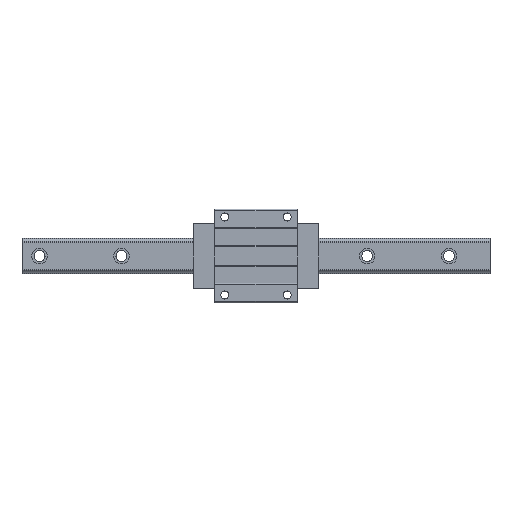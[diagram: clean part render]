
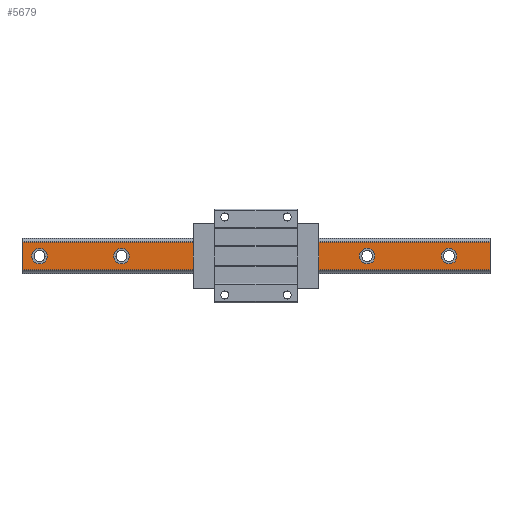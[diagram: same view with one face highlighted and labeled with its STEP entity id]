
A CAD part, top view. The second image highlights one B-rep face of the part: STEP entity #5679.
In plain terms, the highlighted planar face has unit normal (0, 0, 1).
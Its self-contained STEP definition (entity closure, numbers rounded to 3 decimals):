
#45 = EDGE_LOOP ( 'NONE', ( #5577, #1762 ) ) ;
#65 = VERTEX_POINT ( 'NONE', #7256 ) ;
#82 = EDGE_LOOP ( 'NONE', ( #3381, #1138 ) ) ;
#165 = VECTOR ( 'NONE', #6113, 1000. ) ;
#166 = VERTEX_POINT ( 'NONE', #3413 ) ;
#237 = EDGE_CURVE ( 'NONE', #3183, #3888, #2359, .T. ) ;
#258 = CARTESIAN_POINT ( 'NONE',  ( -287.5, 0., 32. ) ) ;
#307 = DIRECTION ( 'NONE',  ( 0., 1., 0. ) ) ;
#466 = ORIENTED_EDGE ( 'NONE', *, *, #3398, .F. ) ;
#586 = ORIENTED_EDGE ( 'NONE', *, *, #6864, .F. ) ;
#641 = CARTESIAN_POINT ( 'NONE',  ( 247.5, 0., 32. ) ) ;
#648 = DIRECTION ( 'NONE',  ( 0., 0., 1. ) ) ;
#658 = CARTESIAN_POINT ( 'NONE',  ( 300., 17.738, 32. ) ) ;
#665 = CARTESIAN_POINT ( 'NONE',  ( 142.5, 0., 32. ) ) ;
#781 = CARTESIAN_POINT ( 'NONE',  ( 152.5, 0., 32. ) ) ;
#853 = CARTESIAN_POINT ( 'NONE',  ( 37.5, 0., 32. ) ) ;
#868 = EDGE_CURVE ( 'NONE', #3888, #3183, #974, .T. ) ;
#872 = FACE_BOUND ( 'NONE', #3966, .T. ) ;
#941 = FACE_BOUND ( 'NONE', #6300, .T. ) ;
#961 = LINE ( 'NONE', #1323, #6206 ) ;
#966 = AXIS2_PLACEMENT_3D ( 'NONE', #665, #5826, #4720 ) ;
#974 = CIRCLE ( 'NONE', #2173, 10. ) ;
#998 = CARTESIAN_POINT ( 'NONE',  ( 300., -17.738, 32. ) ) ;
#1058 = DIRECTION ( 'NONE',  ( 0., 0., 1. ) ) ;
#1136 = DIRECTION ( 'NONE',  ( 0., 0., 1. ) ) ;
#1138 = ORIENTED_EDGE ( 'NONE', *, *, #3102, .F. ) ;
#1208 = CIRCLE ( 'NONE', #966, 10. ) ;
#1296 = CARTESIAN_POINT ( 'NONE',  ( -172.5, 0., 32. ) ) ;
#1323 = CARTESIAN_POINT ( 'NONE',  ( 300., 17.738, 32. ) ) ;
#1362 = DIRECTION ( 'NONE',  ( 0., 0., 1. ) ) ;
#1548 = ORIENTED_EDGE ( 'NONE', *, *, #5870, .F. ) ;
#1630 = DIRECTION ( 'NONE',  ( 0., -1., 0. ) ) ;
#1733 = DIRECTION ( 'NONE',  ( 1., 0., 0. ) ) ;
#1762 = ORIENTED_EDGE ( 'NONE', *, *, #2782, .F. ) ;
#1805 = AXIS2_PLACEMENT_3D ( 'NONE', #853, #3089, #4240 ) ;
#1829 = CARTESIAN_POINT ( 'NONE',  ( -67.5, 0., 32. ) ) ;
#1835 = AXIS2_PLACEMENT_3D ( 'NONE', #2300, #648, #4588 ) ;
#1860 = EDGE_CURVE ( 'NONE', #5499, #4674, #961, .T. ) ;
#1913 = DIRECTION ( 'NONE',  ( 1., 0., 0. ) ) ;
#1958 = CIRCLE ( 'NONE', #1835, 10. ) ;
#1988 = VERTEX_POINT ( 'NONE', #2886 ) ;
#2146 = DIRECTION ( 'NONE',  ( 0., 0., -1. ) ) ;
#2173 = AXIS2_PLACEMENT_3D ( 'NONE', #5445, #3216, #3140 ) ;
#2280 = CARTESIAN_POINT ( 'NONE',  ( -182.5, 0., 32. ) ) ;
#2300 = CARTESIAN_POINT ( 'NONE',  ( 37.5, 0., 32. ) ) ;
#2311 = AXIS2_PLACEMENT_3D ( 'NONE', #1296, #3581, #5851 ) ;
#2313 = AXIS2_PLACEMENT_3D ( 'NONE', #4333, #5415, #4890 ) ;
#2345 = CARTESIAN_POINT ( 'NONE',  ( -300., 17.738, 32. ) ) ;
#2359 = CIRCLE ( 'NONE', #2720, 10. ) ;
#2396 = DIRECTION ( 'NONE',  ( 1., 0., 0. ) ) ;
#2548 = ORIENTED_EDGE ( 'NONE', *, *, #237, .F. ) ;
#2557 = AXIS2_PLACEMENT_3D ( 'NONE', #5071, #1058, #6156 ) ;
#2592 = ORIENTED_EDGE ( 'NONE', *, *, #5902, .F. ) ;
#2635 = VECTOR ( 'NONE', #1630, 1000. ) ;
#2680 = CARTESIAN_POINT ( 'NONE',  ( 300., -17.738, 32. ) ) ;
#2720 = AXIS2_PLACEMENT_3D ( 'NONE', #1829, #5315, #2396 ) ;
#2782 = EDGE_CURVE ( 'NONE', #1988, #7087, #5510, .T. ) ;
#2795 = VERTEX_POINT ( 'NONE', #781 ) ;
#2886 = CARTESIAN_POINT ( 'NONE',  ( 27.5, 0., 32. ) ) ;
#2974 = VERTEX_POINT ( 'NONE', #3371 ) ;
#3042 = CIRCLE ( 'NONE', #2313, 10. ) ;
#3089 = DIRECTION ( 'NONE',  ( 0., 0., 1. ) ) ;
#3102 = EDGE_CURVE ( 'NONE', #2974, #2795, #1208, .T. ) ;
#3140 = DIRECTION ( 'NONE',  ( 1., 0., 0. ) ) ;
#3175 = FACE_BOUND ( 'NONE', #5995, .T. ) ;
#3183 = VERTEX_POINT ( 'NONE', #6950 ) ;
#3216 = DIRECTION ( 'NONE',  ( 0., 0., 1. ) ) ;
#3222 = LINE ( 'NONE', #998, #2635 ) ;
#3248 = ORIENTED_EDGE ( 'NONE', *, *, #5625, .T. ) ;
#3262 = DIRECTION ( 'NONE',  ( -1., 0., 0. ) ) ;
#3336 = CARTESIAN_POINT ( 'NONE',  ( 300., -17.738, 32. ) ) ;
#3371 = CARTESIAN_POINT ( 'NONE',  ( 132.5, 0., 32. ) ) ;
#3381 = ORIENTED_EDGE ( 'NONE', *, *, #4963, .F. ) ;
#3398 = EDGE_CURVE ( 'NONE', #5499, #4255, #3222, .T. ) ;
#3413 = CARTESIAN_POINT ( 'NONE',  ( -162.5, 0., 32. ) ) ;
#3415 = VERTEX_POINT ( 'NONE', #3882 ) ;
#3581 = DIRECTION ( 'NONE',  ( 0., 0., 1. ) ) ;
#3603 = CARTESIAN_POINT ( 'NONE',  ( 257.5, 0., 32. ) ) ;
#3651 = DIRECTION ( 'NONE',  ( 1., 0., 0. ) ) ;
#3798 = FACE_BOUND ( 'NONE', #5800, .T. ) ;
#3805 = ORIENTED_EDGE ( 'NONE', *, *, #4946, .F. ) ;
#3834 = CARTESIAN_POINT ( 'NONE',  ( -300., -17.738, 32. ) ) ;
#3846 = EDGE_CURVE ( 'NONE', #5263, #3935, #6283, .T. ) ;
#3875 = CARTESIAN_POINT ( 'NONE',  ( -277.5, 0., 32. ) ) ;
#3882 = CARTESIAN_POINT ( 'NONE',  ( -267.5, 0., 32. ) ) ;
#3888 = VERTEX_POINT ( 'NONE', #4209 ) ;
#3935 = VERTEX_POINT ( 'NONE', #3603 ) ;
#3966 = EDGE_LOOP ( 'NONE', ( #7030, #1548 ) ) ;
#3982 = CIRCLE ( 'NONE', #2311, 10. ) ;
#4027 = VERTEX_POINT ( 'NONE', #258 ) ;
#4110 = EDGE_CURVE ( 'NONE', #4255, #65, #7330, .T. ) ;
#4121 = CIRCLE ( 'NONE', #6850, 10. ) ;
#4209 = CARTESIAN_POINT ( 'NONE',  ( -57.5, 0., 32. ) ) ;
#4240 = DIRECTION ( 'NONE',  ( 1., 0., 0. ) ) ;
#4255 = VERTEX_POINT ( 'NONE', #6952 ) ;
#4299 = VECTOR ( 'NONE', #6244, 1000. ) ;
#4333 = CARTESIAN_POINT ( 'NONE',  ( -277.5, 0., 32. ) ) ;
#4432 = DIRECTION ( 'NONE',  ( 0., 0., 1. ) ) ;
#4472 = AXIS2_PLACEMENT_3D ( 'NONE', #2680, #2146, #307 ) ;
#4588 = DIRECTION ( 'NONE',  ( 1., 0., 0. ) ) ;
#4653 = DIRECTION ( 'NONE',  ( 0., 0., 1. ) ) ;
#4674 = VERTEX_POINT ( 'NONE', #2345 ) ;
#4720 = DIRECTION ( 'NONE',  ( 1., 0., 0. ) ) ;
#4735 = CARTESIAN_POINT ( 'NONE',  ( 247.5, 0., 32. ) ) ;
#4740 = EDGE_CURVE ( 'NONE', #166, #6509, #3982, .T. ) ;
#4821 = AXIS2_PLACEMENT_3D ( 'NONE', #3875, #4432, #7234 ) ;
#4890 = DIRECTION ( 'NONE',  ( 1., 0., 0. ) ) ;
#4913 = LINE ( 'NONE', #3834, #165 ) ;
#4934 = CIRCLE ( 'NONE', #4821, 10. ) ;
#4946 = EDGE_CURVE ( 'NONE', #3415, #4027, #4934, .T. ) ;
#4954 = FACE_BOUND ( 'NONE', #82, .T. ) ;
#4963 = EDGE_CURVE ( 'NONE', #2795, #2974, #5768, .T. ) ;
#5071 = CARTESIAN_POINT ( 'NONE',  ( 142.5, 0., 32. ) ) ;
#5117 = EDGE_LOOP ( 'NONE', ( #3248, #6813, #466, #7179 ) ) ;
#5128 = EDGE_CURVE ( 'NONE', #7087, #1988, #1958, .T. ) ;
#5145 = CARTESIAN_POINT ( 'NONE',  ( 47.5, 0., 32. ) ) ;
#5187 = CIRCLE ( 'NONE', #5307, 10. ) ;
#5263 = VERTEX_POINT ( 'NONE', #5994 ) ;
#5307 = AXIS2_PLACEMENT_3D ( 'NONE', #7376, #1136, #1733 ) ;
#5315 = DIRECTION ( 'NONE',  ( 0., 0., 1. ) ) ;
#5333 = AXIS2_PLACEMENT_3D ( 'NONE', #641, #4653, #1913 ) ;
#5415 = DIRECTION ( 'NONE',  ( 0., 0., 1. ) ) ;
#5440 = FACE_OUTER_BOUND ( 'NONE', #5117, .T. ) ;
#5445 = CARTESIAN_POINT ( 'NONE',  ( -67.5, 0., 32. ) ) ;
#5499 = VERTEX_POINT ( 'NONE', #658 ) ;
#5510 = CIRCLE ( 'NONE', #1805, 10. ) ;
#5577 = ORIENTED_EDGE ( 'NONE', *, *, #5128, .F. ) ;
#5625 = EDGE_CURVE ( 'NONE', #4674, #65, #4913, .T. ) ;
#5679 = ADVANCED_FACE ( 'NONE', ( #3798, #4954, #6074, #941, #872, #3175, #5440 ), #7265, .F. ) ;
#5768 = CIRCLE ( 'NONE', #2557, 10. ) ;
#5800 = EDGE_LOOP ( 'NONE', ( #2592, #6483 ) ) ;
#5826 = DIRECTION ( 'NONE',  ( 0., 0., 1. ) ) ;
#5851 = DIRECTION ( 'NONE',  ( 1., 0., 0. ) ) ;
#5870 = EDGE_CURVE ( 'NONE', #6509, #166, #5187, .T. ) ;
#5902 = EDGE_CURVE ( 'NONE', #3935, #5263, #4121, .T. ) ;
#5994 = CARTESIAN_POINT ( 'NONE',  ( 237.5, 0., 32. ) ) ;
#5995 = EDGE_LOOP ( 'NONE', ( #3805, #586 ) ) ;
#6074 = FACE_BOUND ( 'NONE', #45, .T. ) ;
#6083 = ORIENTED_EDGE ( 'NONE', *, *, #868, .F. ) ;
#6113 = DIRECTION ( 'NONE',  ( 0., -1., 0. ) ) ;
#6156 = DIRECTION ( 'NONE',  ( 1., 0., 0. ) ) ;
#6206 = VECTOR ( 'NONE', #3262, 1000. ) ;
#6244 = DIRECTION ( 'NONE',  ( -1., 0., 0. ) ) ;
#6283 = CIRCLE ( 'NONE', #5333, 10. ) ;
#6300 = EDGE_LOOP ( 'NONE', ( #6083, #2548 ) ) ;
#6483 = ORIENTED_EDGE ( 'NONE', *, *, #3846, .F. ) ;
#6509 = VERTEX_POINT ( 'NONE', #2280 ) ;
#6813 = ORIENTED_EDGE ( 'NONE', *, *, #4110, .F. ) ;
#6850 = AXIS2_PLACEMENT_3D ( 'NONE', #4735, #1362, #3651 ) ;
#6864 = EDGE_CURVE ( 'NONE', #4027, #3415, #3042, .T. ) ;
#6950 = CARTESIAN_POINT ( 'NONE',  ( -77.5, 0., 32. ) ) ;
#6952 = CARTESIAN_POINT ( 'NONE',  ( 300., -17.738, 32. ) ) ;
#7030 = ORIENTED_EDGE ( 'NONE', *, *, #4740, .F. ) ;
#7087 = VERTEX_POINT ( 'NONE', #5145 ) ;
#7179 = ORIENTED_EDGE ( 'NONE', *, *, #1860, .T. ) ;
#7234 = DIRECTION ( 'NONE',  ( 1., 0., 0. ) ) ;
#7256 = CARTESIAN_POINT ( 'NONE',  ( -300., -17.738, 32. ) ) ;
#7265 = PLANE ( 'NONE',  #4472 ) ;
#7330 = LINE ( 'NONE', #3336, #4299 ) ;
#7376 = CARTESIAN_POINT ( 'NONE',  ( -172.5, 0., 32. ) ) ;
